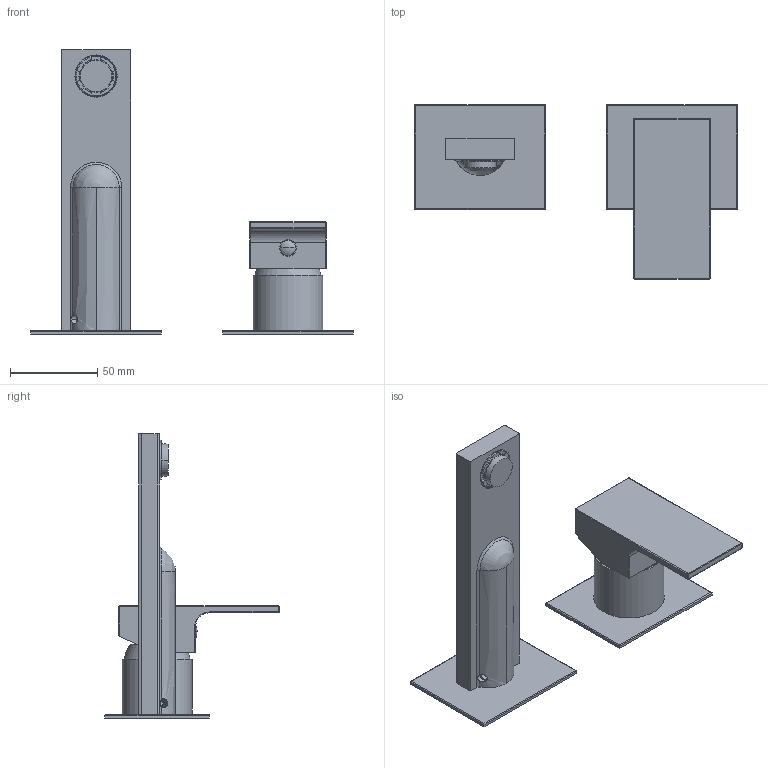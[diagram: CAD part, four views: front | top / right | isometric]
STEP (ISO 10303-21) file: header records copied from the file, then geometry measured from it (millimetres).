
FILE_DESCRIPTION((''),'2;1');
FILE_NAME('35547B_SW0001','2026-02-03T16:16:07',('carloff'),(''),'CREO PARAMETRIC BY PTC INC, 2022014','CREO PARAMETRIC BY PTC INC, 2022014','');
FILE_SCHEMA(('CONFIG_CONTROL_DESIGN'));
Products named in the file (1): 35547B_SW0001
Bounding box: 185 x 100 x 163 mm (x, y, z)
Volume: 154736.3 mm3; surface area: 90912.4 mm2
Topology: 4 solids, 4 shells, 914 faces, 2587 edges, 1684 vertices
Faces by surface type: cylinder 339, plane 326, torus 94, cone 74, bspline 63, sphere 18
Entity records: 59456 total; most frequent: CARTESIAN_POINT 36132, ORIENTED_EDGE 5156, DIRECTION 4625, EDGE_CURVE 2578, AXIS2_PLACEMENT_3D 1738, VERTEX_POINT 1684, VECTOR 1149, LINE 1149
